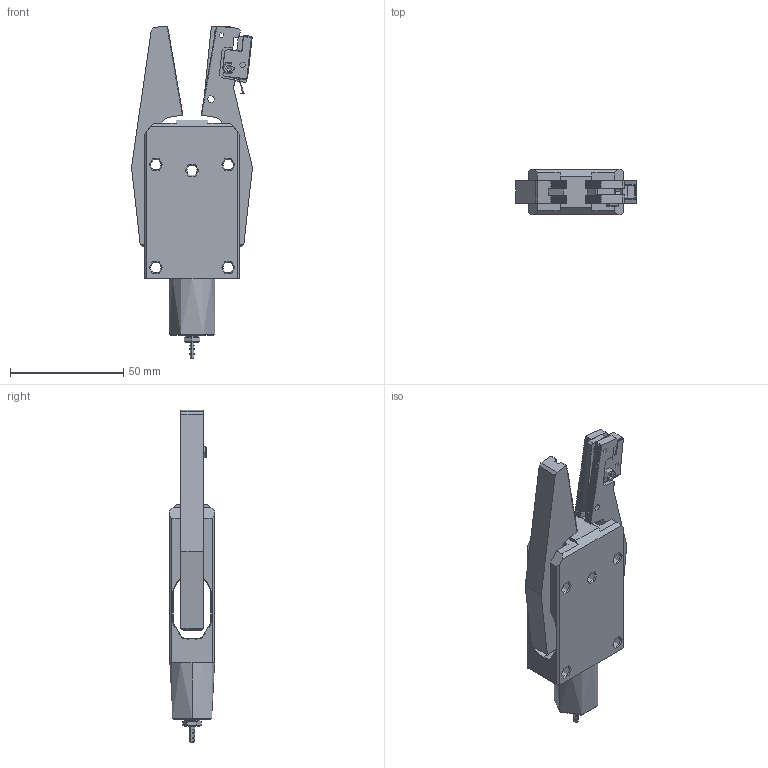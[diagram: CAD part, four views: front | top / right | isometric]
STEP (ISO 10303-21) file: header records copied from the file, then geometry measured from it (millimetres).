
FILE_DESCRIPTION (( 'STEP AP214' ), '1' );
FILE_NAME ('GRX20-CP.STEP', '2019-11-12T03:53:57', ( '微软用户' ), ( '微软中国' ), 'SwSTEP 2.0', 'SolidWorks 2016', '' );
FILE_SCHEMA (( 'AUTOMOTIVE_DESIGN' ));
Length unit declared in the file: millimetre
Products named in the file (1): GRX20-CP
Bounding box: 53.49 x 20 x 146.87 mm (x, y, z)
Topology: 7 solids, 10 shells, 7152 faces, 15187 edges, 8048 vertices
Faces by surface type: plane 5673, bspline 1236, cylinder 126, cone 107, torus 10
Entity records: 274671 total; most frequent: CARTESIAN_POINT 50485, ORIENTED_EDGE 30362, DIRECTION 27090, EDGE_CURVE 15181, VECTOR 14560, LINE 14560, VERTEX_POINT 8048, EDGE_LOOP 7203
